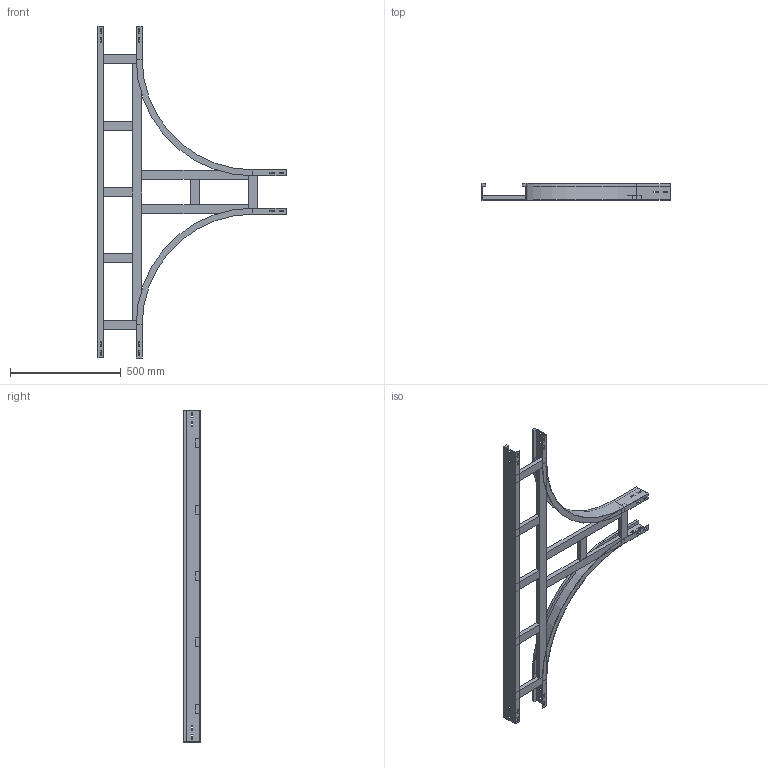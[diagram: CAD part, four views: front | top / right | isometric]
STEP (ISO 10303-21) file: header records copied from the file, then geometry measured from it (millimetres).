
FILE_DESCRIPTION (( 'STEP AP214' ), '1' );
FILE_NAME ('15B5C200.step', '2025-02-21T15:52:27', ( '' ), ( '' ), 'SwSTEP 2.0', 'SolidWorks 2023', '' );
FILE_SCHEMA (( 'AUTOMOTIVE_DESIGN' ));
Length unit declared in the file: millimetre
Products named in the file (8): TRAVERSINO_COPPIA_200; TRAVERSINO_INTERMEDIO_R500+200; 15B5C200; TRAVERSINO_LONG._R500+200; LONGH.RETT_H75_R500+200; LONGH.INTERNO 90°_H75_R500; TRAVERSINO_VERT_R500; TRAVERSINO_200
Assembly tree (13 placements, depth 2):
  15B5C200
    LONGH.INTERNO 90°_H75_R500  x2
    LONGH.RETT_H75_R500+200
    TRAVERSINO_200  x3
    TRAVERSINO_LONG._R500+200
    TRAVERSINO_INTERMEDIO_R500+200  x3
    TRAVERSINO_VERT_R500  x2
    TRAVERSINO_COPPIA_200
Bounding box: 850 x 75 x 1500 mm (x, y, z)
Volume: 4107265.9 mm3; surface area: 1283171.5 mm2
Topology: 13 solids, 13 shells, 218 faces, 544 edges, 352 vertices
Faces by surface type: plane 210, cylinder 8
Entity records: 4201 total; most frequent: CARTESIAN_POINT 694, ORIENTED_EDGE 664, DIRECTION 632, EDGE_CURVE 332, LINE 324, VECTOR 324, VERTEX_POINT 216, EDGE_LOOP 162
